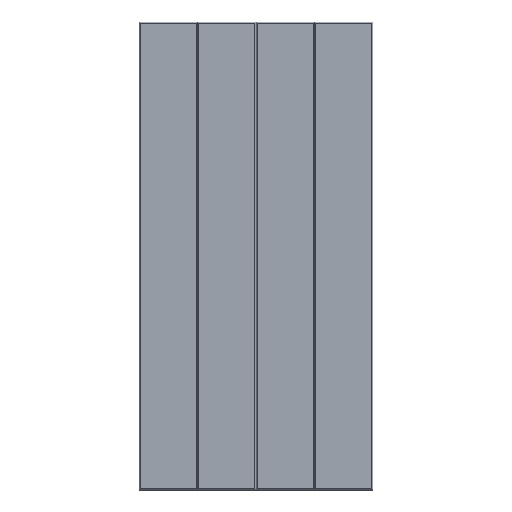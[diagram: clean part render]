
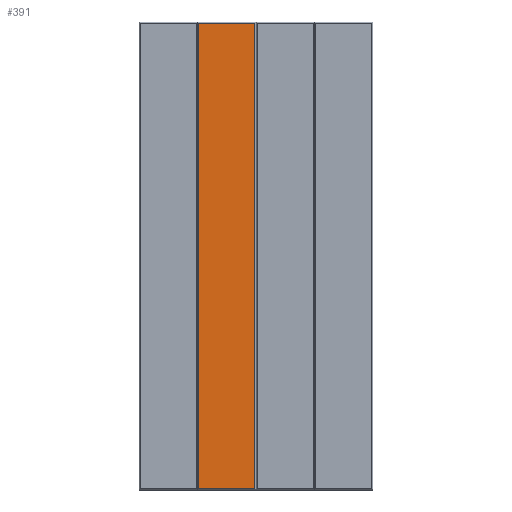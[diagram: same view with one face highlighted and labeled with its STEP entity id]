
A CAD part, top view. The second image highlights one B-rep face of the part: STEP entity #391.
In plain terms, the highlighted planar face has unit normal (0, 0, 1).
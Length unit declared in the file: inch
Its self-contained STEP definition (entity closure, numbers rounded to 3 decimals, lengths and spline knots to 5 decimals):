
#21=FACE_OUTER_BOUND('',#46,.T.);
#46=EDGE_LOOP('',(#278,#279,#280,#281));
#75=LINE('',#586,#128);
#79=LINE('',#595,#132);
#84=LINE('',#604,#137);
#85=LINE('',#605,#138);
#128=VECTOR('',#475,0.3937);
#132=VECTOR('',#483,0.3937);
#137=VECTOR('',#492,0.3937);
#138=VECTOR('',#493,0.3937);
#178=VERTEX_POINT('',#580);
#180=VERTEX_POINT('',#584);
#183=VERTEX_POINT('',#594);
#185=VERTEX_POINT('',#603);
#211=EDGE_CURVE('',#178,#180,#75,.T.);
#215=EDGE_CURVE('',#178,#183,#79,.T.);
#220=EDGE_CURVE('',#185,#180,#84,.T.);
#221=EDGE_CURVE('',#185,#183,#85,.T.);
#278=ORIENTED_EDGE('',*,*,#211,.T.);
#279=ORIENTED_EDGE('',*,*,#220,.F.);
#280=ORIENTED_EDGE('',*,*,#221,.T.);
#281=ORIENTED_EDGE('',*,*,#215,.F.);
#366=PLANE('',#438);
#391=ADVANCED_FACE('',(#21),#366,.T.);
#438=AXIS2_PLACEMENT_3D('',#602,#490,#491);
#475=DIRECTION('',(0.,1.,0.));
#483=DIRECTION('',(-1.,0.,0.));
#490=DIRECTION('center_axis',(0.,0.,1.));
#491=DIRECTION('ref_axis',(1.,0.,0.));
#492=DIRECTION('',(1.,0.,0.));
#493=DIRECTION('',(0.,-1.,0.));
#580=CARTESIAN_POINT('',(-0.25,-47.75,0.5));
#584=CARTESIAN_POINT('',(-0.25,47.75,0.5));
#586=CARTESIAN_POINT('',(-0.25,27.,0.5));
#594=CARTESIAN_POINT('',(-11.75,-47.75,0.5));
#595=CARTESIAN_POINT('',(-12.,-47.75,0.5));
#602=CARTESIAN_POINT('Origin',(0.,0.,0.5));
#603=CARTESIAN_POINT('',(-11.75,47.75,0.5));
#604=CARTESIAN_POINT('',(12.,47.75,0.5));
#605=CARTESIAN_POINT('',(-11.75,-27.,0.5));
